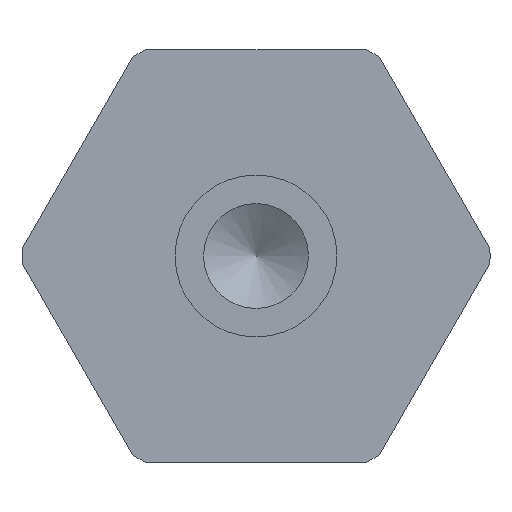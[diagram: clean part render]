
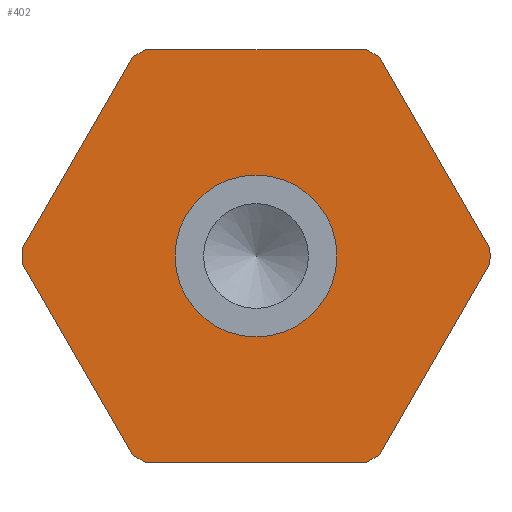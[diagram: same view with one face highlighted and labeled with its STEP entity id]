
A CAD part, left-side view. The second image highlights one B-rep face of the part: STEP entity #402.
In plain terms, the highlighted planar face has unit normal (-1, 0, 0).
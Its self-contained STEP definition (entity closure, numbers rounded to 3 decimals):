
#19=LINE($,#639,#43);
#22=LINE($,#645,#46);
#25=LINE($,#651,#49);
#28=LINE($,#657,#52);
#31=LINE($,#663,#55);
#33=LINE($,#671,#57);
#43=VECTOR($,#511,3.394);
#46=VECTOR($,#516,3.394);
#49=VECTOR($,#521,3.394);
#52=VECTOR($,#526,3.394);
#55=VECTOR($,#531,3.394);
#57=VECTOR($,#539,3.394);
#67=PLANE($,#441);
#77=FACE_BOUND($,#135,.T.);
#78=FACE_BOUND($,#136,.T.);
#135=EDGE_LOOP($,(#307));
#136=EDGE_LOOP($,(#308,#309,#310,#311,#312,#313,#314,#315,#316,#317,#318,
#319));
#171=CIRCLE($,#442,1.245);
#172=CIRCLE($,#443,3.6);
#173=CIRCLE($,#444,3.6);
#174=CIRCLE($,#445,3.6);
#175=CIRCLE($,#446,3.6);
#176=CIRCLE($,#447,3.6);
#177=CIRCLE($,#448,3.6);
#201=VERTEX_POINT($,#636);
#202=VERTEX_POINT($,#638);
#203=VERTEX_POINT($,#642);
#204=VERTEX_POINT($,#644);
#205=VERTEX_POINT($,#648);
#206=VERTEX_POINT($,#650);
#207=VERTEX_POINT($,#654);
#208=VERTEX_POINT($,#656);
#209=VERTEX_POINT($,#660);
#210=VERTEX_POINT($,#662);
#211=VERTEX_POINT($,#666);
#212=VERTEX_POINT($,#668);
#213=VERTEX_POINT($,#670);
#238=EDGE_CURVE($,#202,#201,#19,.T.);
#241=EDGE_CURVE($,#204,#203,#22,.T.);
#244=EDGE_CURVE($,#206,#205,#25,.T.);
#247=EDGE_CURVE($,#208,#207,#28,.T.);
#250=EDGE_CURVE($,#210,#209,#31,.T.);
#252=EDGE_CURVE($,#211,#211,#171,.T.);
#253=EDGE_CURVE($,#201,#212,#172,.T.);
#254=EDGE_CURVE($,#212,#213,#33,.T.);
#255=EDGE_CURVE($,#213,#210,#173,.T.);
#256=EDGE_CURVE($,#209,#208,#174,.T.);
#257=EDGE_CURVE($,#207,#206,#175,.T.);
#258=EDGE_CURVE($,#205,#204,#176,.T.);
#259=EDGE_CURVE($,#203,#202,#177,.T.);
#307=ORIENTED_EDGE($,*,*,#252,.F.);
#308=ORIENTED_EDGE($,*,*,#238,.T.);
#309=ORIENTED_EDGE($,*,*,#253,.T.);
#310=ORIENTED_EDGE($,*,*,#254,.T.);
#311=ORIENTED_EDGE($,*,*,#255,.T.);
#312=ORIENTED_EDGE($,*,*,#250,.T.);
#313=ORIENTED_EDGE($,*,*,#256,.T.);
#314=ORIENTED_EDGE($,*,*,#247,.T.);
#315=ORIENTED_EDGE($,*,*,#257,.T.);
#316=ORIENTED_EDGE($,*,*,#244,.T.);
#317=ORIENTED_EDGE($,*,*,#258,.T.);
#318=ORIENTED_EDGE($,*,*,#241,.T.);
#319=ORIENTED_EDGE($,*,*,#259,.T.);
#402=ADVANCED_FACE($,(#77,#78),#67,.T.);
#441=AXIS2_PLACEMENT_3D($,#665,#533,#534);
#442=AXIS2_PLACEMENT_3D($,#667,#535,#536);
#443=AXIS2_PLACEMENT_3D($,#669,#537,#538);
#444=AXIS2_PLACEMENT_3D($,#672,#540,#541);
#445=AXIS2_PLACEMENT_3D($,#673,#542,#543);
#446=AXIS2_PLACEMENT_3D($,#674,#544,#545);
#447=AXIS2_PLACEMENT_3D($,#675,#546,#547);
#448=AXIS2_PLACEMENT_3D($,#676,#548,#549);
#511=DIRECTION($,(0.,-0.5,-0.866));
#516=DIRECTION($,(0.,0.5,-0.866));
#521=DIRECTION($,(0.,1.,0.));
#526=DIRECTION($,(0.,0.5,0.866));
#531=DIRECTION($,(0.,-0.5,0.866));
#533=DIRECTION('center_axis',(-1.,0.,0.));
#534=DIRECTION('ref_axis',(0.,0.,1.));
#535=DIRECTION('center_axis',(-1.,0.,0.));
#536=DIRECTION('ref_axis',(0.,1.,0.));
#537=DIRECTION('center_axis',(-1.,0.,0.));
#538=DIRECTION('ref_axis',(0.,1.,0.));
#539=DIRECTION($,(0.,-1.,0.));
#540=DIRECTION('center_axis',(-1.,0.,0.));
#541=DIRECTION('ref_axis',(0.,1.,0.));
#542=DIRECTION('center_axis',(-1.,0.,0.));
#543=DIRECTION('ref_axis',(0.,1.,0.));
#544=DIRECTION('center_axis',(-1.,0.,0.));
#545=DIRECTION('ref_axis',(0.,1.,0.));
#546=DIRECTION('center_axis',(-1.,0.,0.));
#547=DIRECTION('ref_axis',(0.,1.,0.));
#548=DIRECTION('center_axis',(-1.,0.,0.));
#549=DIRECTION('ref_axis',(0.,1.,0.));
#636=CARTESIAN_POINT('',(-12.022,0.315,-3.057));
#638=CARTESIAN_POINT('',(-12.022,2.012,-0.118));
#639=CARTESIAN_POINT($,(-12.022,1.464,-1.067));
#642=CARTESIAN_POINT('',(-12.022,2.012,0.118));
#644=CARTESIAN_POINT('',(-12.022,0.315,3.057));
#645=CARTESIAN_POINT($,(-12.022,1.468,1.059));
#648=CARTESIAN_POINT('',(-12.022,0.111,3.175));
#650=CARTESIAN_POINT('',(-12.022,-3.283,3.175));
#651=CARTESIAN_POINT($,(-12.022,-0.371,3.175));
#654=CARTESIAN_POINT('',(-12.022,-3.488,3.057));
#656=CARTESIAN_POINT('',(-12.022,-5.184,0.118));
#657=CARTESIAN_POINT($,(-12.022,-4.031,2.116));
#660=CARTESIAN_POINT('',(-12.022,-5.184,-0.118));
#662=CARTESIAN_POINT('',(-12.022,-3.488,-3.057));
#663=CARTESIAN_POINT($,(-12.022,-4.035,-2.108));
#665=CARTESIAN_POINT('Origin',(-12.022,0.836,0.));
#666=CARTESIAN_POINT('',(-12.022,-0.342,0.));
#667=CARTESIAN_POINT('Origin',(-12.022,-1.586,0.));
#668=CARTESIAN_POINT('',(-12.022,0.111,-3.175));
#669=CARTESIAN_POINT('Origin',(-12.022,-1.586,0.));
#670=CARTESIAN_POINT('',(-12.022,-3.283,-3.175));
#671=CARTESIAN_POINT($,(-12.022,-0.379,-3.175));
#672=CARTESIAN_POINT('Origin',(-12.022,-1.586,0.));
#673=CARTESIAN_POINT('Origin',(-12.022,-1.586,0.));
#674=CARTESIAN_POINT('Origin',(-12.022,-1.586,0.));
#675=CARTESIAN_POINT('Origin',(-12.022,-1.586,0.));
#676=CARTESIAN_POINT('Origin',(-12.022,-1.586,0.));
